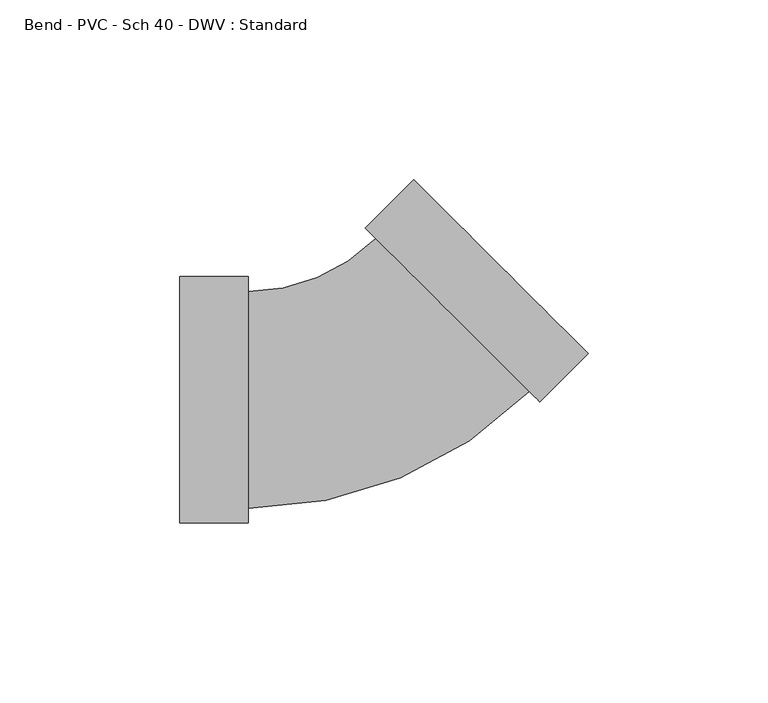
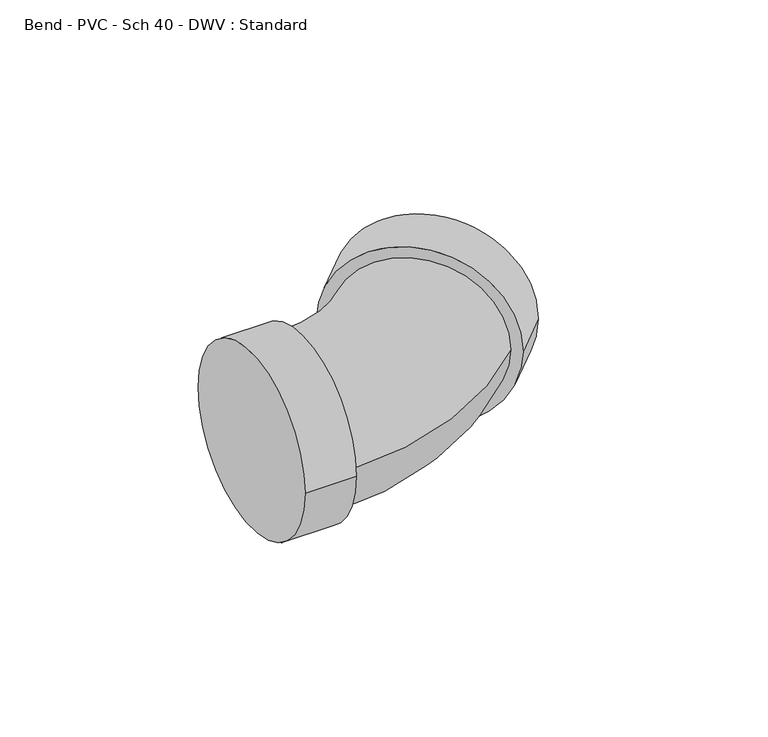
"""IFC4 building model written with IfcOpenShell, lengths in millimetres: pipe fitting geometry, Bend - PVC - Sch 40 - DWV : Standard."""

from ifc_helpers import new_model, si_unit, point, frame, origin, place, context, project, spatial, circle_curve, ellipse_curve, trimmed, source, transform, mapped, element, save
from ifc_brep_helpers import plane_surface, cylinder_surface, revolved_surface, advanced_brep


def bend_pvc_sch_40_dwv_standard_ededf42e(model_context):
    return source(origin(), model_context, "Body", "AdvancedBrep", [
        advanced_brep(
        [(-52.4002, -34.3154, 0.0), (-52.4002, 34.3154, 0.0), (-33.3502, -34.3154, 0.0), (-33.3502, 34.3154, 0.0), (-33.3502, -30.1625, 0.0), (-33.3502, 30.1625, 0.0), (2.1771994, 44.9140518, 0.0), (44.9063384, 2.3308826, 0.0), (47.8479023, -0.6006324, 0.0), (-0.7643645, 47.8455668, 0.0), (61.2952189, 12.8927799, 0.0), (12.6829521, 61.3389792, 0.0)],
        [
            (0, 1, circle_curve(frame((-52.4002, 0.0, 0.0), z_axis=(-1.0, 0.0, 0.0), x_axis=(0.0, 1.0, 0.0)), 34.3154)),
            (1, 0, circle_curve(frame((-52.4002, 0.0, 0.0), z_axis=(-1.0, 0.0, 0.0), x_axis=(0.0, 1.0, 0.0)), 34.3154)),
            (2, 3, circle_curve(frame((-33.3502, 0.0, 0.0), z_axis=(1.0, 0.0, 0.0), x_axis=(0.0, 1.0, 0.0)), 34.3154)),
            (3, 2, circle_curve(frame((-33.3502, 0.0, 0.0), z_axis=(1.0, 0.0, 0.0), x_axis=(0.0, 1.0, 0.0)), 34.3154)),
            (4, 5, circle_curve(frame((-33.3502, 0.0, 0.0), z_axis=(-1.0, 0.0, 0.0), x_axis=(0.0, 1.0, 0.0)), 30.1625)),
            (5, 4, circle_curve(frame((-33.3502, 0.0, 0.0), z_axis=(-1.0, 0.0, 0.0), x_axis=(0.0, 1.0, 0.0)), 30.1625)),
            (0, 2),
            (3, 1),
            (6, 5, circle_curve(frame((-33.3502, 80.3200837, 0.0), z_axis=(0.0, 0.0, -1.0), x_axis=(0.0, -1.0, 0.0)), 50.1575837)),
            (4, 7, circle_curve(frame((-33.3502, 80.3200837, 0.0), z_axis=(0.0, 0.0, 1.0), x_axis=(0.0, -1.0, 0.0)), 110.4825837)),
            (7, 6, circle_curve(frame((23.5417689, 23.6224672, 0.0), z_axis=(-0.7058958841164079, -0.7083156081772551, 0.0), x_axis=(-0.7083156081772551, 0.7058958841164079, 0.0)), 30.1625)),
            (6, 7, circle_curve(frame((23.5417689, 23.6224672, 0.0), z_axis=(-0.7058958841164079, -0.7083156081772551, 0.0), x_axis=(-0.7083156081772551, 0.7058958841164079, 0.0)), 30.1625)),
            (8, 9, circle_curve(frame((23.5417689, 23.6224672, 0.0), z_axis=(-0.7058958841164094, -0.7083156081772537, 0.0), x_axis=(-0.7083156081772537, 0.7058958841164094, 0.0)), 34.3154)),
            (9, 8, circle_curve(frame((23.5417689, 23.6224672, 0.0), z_axis=(-0.7058958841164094, -0.7083156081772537, 0.0), x_axis=(-0.7083156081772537, 0.7058958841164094, 0.0)), 34.3154)),
            (10, 11, circle_curve(frame((36.9890855, 37.1158795, 0.0), z_axis=(0.7058958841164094, 0.7083156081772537, 0.0), x_axis=(-0.7083156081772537, 0.7058958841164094, 0.0)), 34.3154)),
            (11, 10, circle_curve(frame((36.9890855, 37.1158795, 0.0), z_axis=(0.7058958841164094, 0.7083156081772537, 0.0), x_axis=(-0.7083156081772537, 0.7058958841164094, 0.0)), 34.3154)),
            (8, 10),
            (11, 9),
        ],
        [
            plane_surface(frame((-52.4002, 0.0, 0.0), z_axis=(-1.0, 0.0, 0.0), x_axis=(0.0, 0.0, 1.0))),
            plane_surface(frame((-33.3502, 0.0, 0.0), z_axis=(1.0, 0.0, 0.0), x_axis=(0.0, 0.0, 1.0))),
            cylinder_surface(frame((-52.4002, 0.0, 0.0), z_axis=(-1.0, 0.0, 0.0), x_axis=(0.0, 1.0, 0.0)), 34.3154),
            revolved_surface(trimmed(ellipse_curve(frame((-33.3502, 0.0, 0.0), z_axis=(-1.0, 0.0, 0.0), x_axis=(0.0, 1.0, 0.0)), 30.1625, 30.1625), [point((-33.3502, -30.1625, 0.0))], [point((-33.3502, 30.1625, 0.0))], True, "CARTESIAN"), (-33.3502, 80.3200837, 0.0), (0.0, 0.0, 1.0)),
            revolved_surface(trimmed(ellipse_curve(frame((-33.3502, 0.0, 0.0), z_axis=(-1.0, 0.0, 0.0), x_axis=(0.0, 1.0, 0.0)), 30.1625, 30.1625), [point((-33.3502, 30.1625, 0.0))], [point((-33.3502, -30.1625, 0.0))], True, "CARTESIAN"), (-33.3502, 80.3200837, 0.0), (0.0, 0.0, 1.0)),
            plane_surface(frame((23.5417689, 23.6224672, 0.0), z_axis=(-0.7058958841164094, -0.7083156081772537, 0.0), x_axis=(0.0, 0.0, 1.0))),
            plane_surface(frame((36.9890855, 37.1158795, 0.0), z_axis=(0.7058958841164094, 0.7083156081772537, 0.0), x_axis=(0.0, 0.0, 1.0))),
            cylinder_surface(frame((23.5417689, 23.6224672, 0.0), z_axis=(-0.7058958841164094, -0.7083156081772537, 0.0), x_axis=(-0.7083156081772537, 0.7058958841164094, 0.0)), 34.3154),
        ],
        [
            (0, [[1, 2]]),
            (1, [[3, 4], [5, 6]]),
            (2, [[-1, 7, -4, 8]]),
            (2, [[-2, -8, -3, -7]]),
            (3, [[9, -5, 10, 11]]),
            (4, [[-9, 12, -10, -6]]),
            (5, [[13, 14], [-11, -12]]),
            (6, [[15, 16]]),
            (7, [[-13, 17, -16, 18]]),
            (7, [[-14, -18, -15, -17]]),
        ],
    ),
    ])


if __name__ == "__main__":
    model = new_model("IFC4")
    model_context = context("Model", 3, world=origin())
    ifc_project = project(units=[si_unit("LENGTHUNIT", "METRE", prefix="MILLI")], contexts=[model_context])
    site = spatial("IfcSite", under=ifc_project)
    building = spatial("IfcBuilding", under=site)
    placement = place(None, origin())
    bend_pvc_sch_40_dwv_standard_shape = bend_pvc_sch_40_dwv_standard_ededf42e(model_context)
    element("IfcPipeFitting", 1, ObjectType="Bend - PVC - Sch 40 - DWV : Standard", at=placement, inside=building, context=model_context, shape_type="MappedRepresentation", body=[
        mapped(bend_pvc_sch_40_dwv_standard_shape, transform((0.0, 0.0, 0.0), x_axis=(1.0, 0.0, 0.0), y_axis=(0.0, 1.0, 0.0), z_axis=(0.0, 0.0, 1.0))),
    ])
    save(model, "model.ifc")
